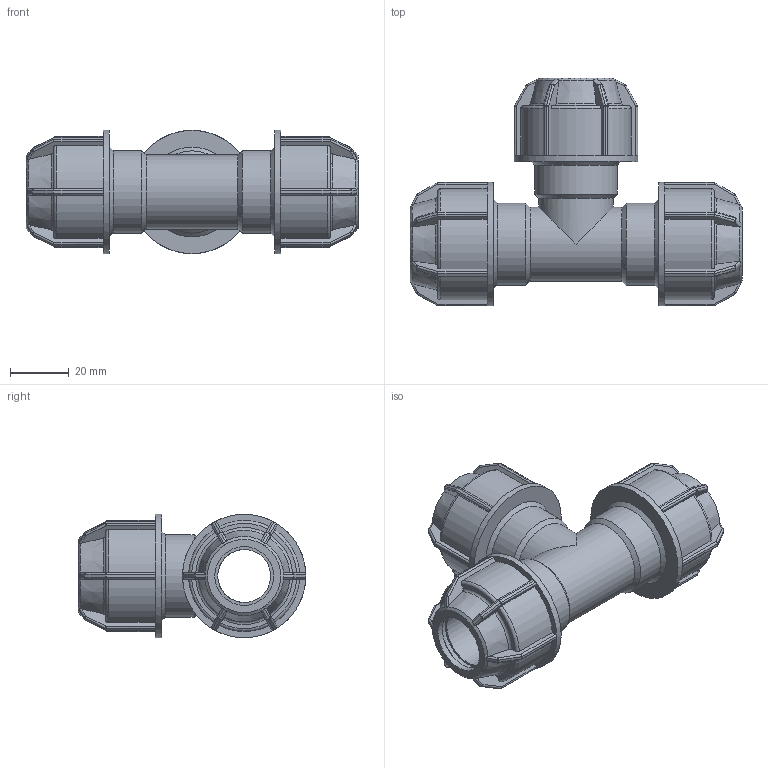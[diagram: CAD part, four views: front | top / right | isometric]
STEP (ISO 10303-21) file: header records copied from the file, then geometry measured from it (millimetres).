
FILE_DESCRIPTION(/* description */ ('PLASSON L.14 TEE (SILVER) 20-20-20'),/* implementation_level */ '2;1');
FILE_NAME(/* name */ 'C:\Dropbox\KIMPROJECTS-Inventor\99-16-3568-Processing\Silver+MF ISRAEL\140400\140400020.ipt.stp',/* time_stamp */ '2018-04-09T13:03:27+03:00',/* author */ ('KIM'),/* organization */ (''),/* preprocessor_version */ 'ST-DEVELOPER v15.6',/* originating_system */ 'Autodesk Inventor 2015',/* authorisation */ '');
FILE_SCHEMA (('AUTOMOTIVE_DESIGN { 1 0 10303 214 3 1 1 }'));
Length unit declared in the file: millimetre
Products named in the file (1): 140400020
Bounding box: 113 x 77.5 x 42 mm (x, y, z)
Volume: 78738.5 mm3; surface area: 32039 mm2
Topology: 1 solids, 1 shells, 607 faces, 1451 edges, 834 vertices
Faces by surface type: plane 288, cylinder 178, sphere 72, torus 42, cone 27
Full cylindrical faces by diameter (mm): 18 x2, 20 x6, 25.2 x2, 28 x3, 42 x3
Entity records: 17672 total; most frequent: CARTESIAN_POINT 4564, DIRECTION 2760, ORIENTED_EDGE 2708, EDGE_CURVE 1354, AXIS2_PLACEMENT_3D 1110, VERTEX_POINT 796, EDGE_LOOP 646, FACE_OUTER_BOUND 601
